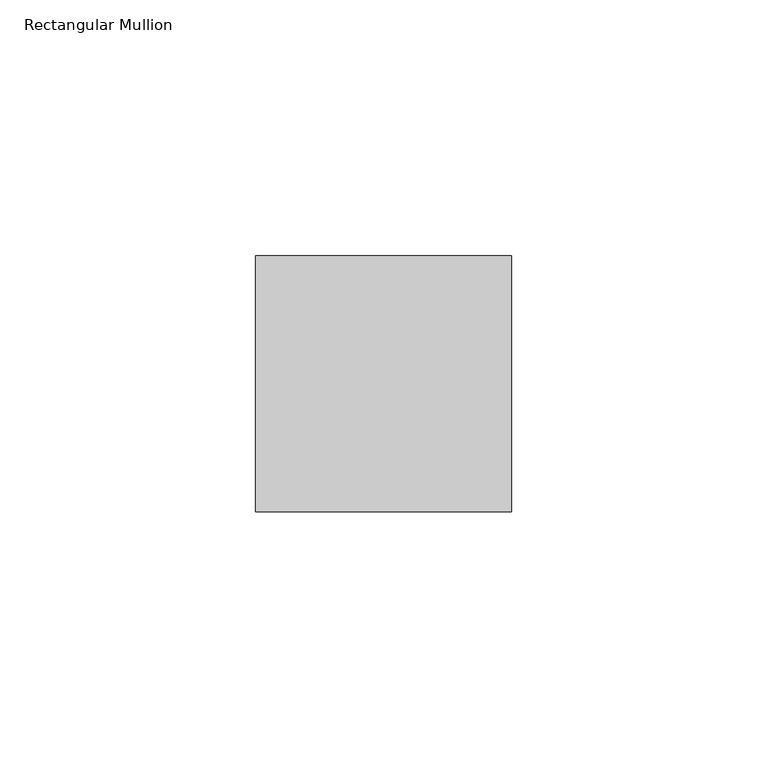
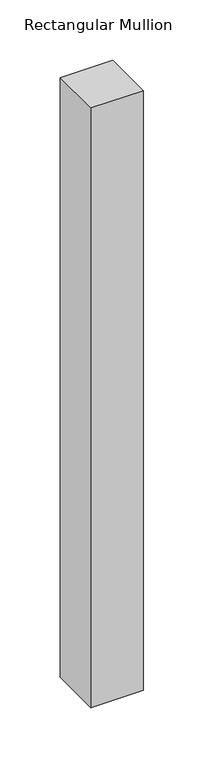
"""IFC4 building model written with IfcOpenShell, lengths in millimetres: member geometry, Rectangular Mullion : RSen_21_CWM_support profile 50x50_gen_duco projects."""

import ifcopenshell
import ifcopenshell.guid

model = None  # the IFC model being written
_history = None  # IfcOwnerHistory: only IFC2X3 demands one
_inside = {}  # id of a spatial element -> (the spatial element, [elements in it])
_under = {}  # id of a project, library or spatial element -> (it, [spatial elements below it])
_declared = {}  # id of a project -> (the project, [libraries it declares])
_typed = {}  # id of a type object -> (the type object, [elements of that type])
_made_of = {}  # id of a material, layer set ... -> (it, [elements and type objects made of it])


def new_model(schema):
    """Start an empty IFC model of exactly this schema.

    Asked for "IFC4X3", IfcOpenShell would pick the latest addendum, in which some entities
    have other attributes; the version numbers below select the first issue.
    IFC2X3 requires an IfcOwnerHistory on every rooted entity: one is made here for all.
    """
    global model, _history
    if schema == "IFC4X3":
        model = ifcopenshell.file(schema_version=(4, 3, 0, 0))
    else:
        model = ifcopenshell.file(schema=schema)
    _inside.clear()
    _under.clear()
    _declared.clear()
    _typed.clear()
    _made_of.clear()
    _history = None
    if model.schema == "IFC2X3":
        org = make("IfcOrganization", Name="unknown")
        user = make(
            "IfcPersonAndOrganization",
            ThePerson=make("IfcPerson", FamilyName="unknown"),
            TheOrganization=org,
        )
        app = make(
            "IfcApplication",
            ApplicationDeveloper=org,
            Version="unknown",
            ApplicationFullName="unknown",
            ApplicationIdentifier="unknown",
        )
        _history = make(
            "IfcOwnerHistory",
            OwningUser=user,
            OwningApplication=app,
            ChangeAction="ADDED",
            CreationDate=0,
        )
    return model


def make(cls, **values):
    """One entity of the class cls with the attributes given. An attribute that is None is left unset."""
    return model.create_entity(
        cls, **{name: value for name, value in values.items() if value is not None}
    )


def rooted(cls, **values):
    """An entity with a GlobalId (a new one), such as an element, a storey or a relation."""
    return make(cls, GlobalId=ifcopenshell.guid.new(), OwnerHistory=_history, **values)


def si_unit(unit_type, name, prefix=None):
    """IfcSIUnit, for example si_unit("LENGTHUNIT", "METRE", prefix="MILLI")."""
    return make("IfcSIUnit", UnitType=unit_type, Prefix=prefix, Name=name)


def assignment(units):
    """IfcUnitAssignment: the units of a project."""
    return None if units is None else make("IfcUnitAssignment", Units=units)


def point(xyz):
    """IfcCartesianPoint."""
    return None if xyz is None else make("IfcCartesianPoint", Coordinates=xyz)


def direction(xyz):
    """IfcDirection."""
    return None if xyz is None else make("IfcDirection", DirectionRatios=xyz)


def frame(location, z_axis=None, x_axis=None):
    """IfcAxis2Placement3D, a coordinate frame: its origin and axes. An axis left out is left unset."""
    return make(
        "IfcAxis2Placement3D",
        Location=point(location),
        Axis=direction(z_axis),
        RefDirection=direction(x_axis),
    )


def origin():
    """The frame at (0, 0, 0) with its axes left unset."""
    return frame((0.0, 0.0, 0.0))


def place(relative_to, where):
    """IfcLocalPlacement: puts the frame where relative to a parent placement (None: the world)."""
    return make(
        "IfcLocalPlacement", PlacementRelTo=relative_to, RelativePlacement=where
    )


def context(
    kind, dimensions, precision=None, world=None, true_north=None, identifier=None
):
    """IfcGeometricRepresentationContext, for example the 3D "Model" context."""
    return make(
        "IfcGeometricRepresentationContext",
        ContextIdentifier=identifier,
        ContextType=kind,
        CoordinateSpaceDimension=dimensions,
        Precision=precision,
        WorldCoordinateSystem=world,
        TrueNorth=true_north,
    )


def project(units=None, contexts=None):
    """IfcProject with its units and contexts."""
    return rooted(
        "IfcProject",
        Name="project",
        RepresentationContexts=contexts,
        UnitsInContext=assignment(units),
    )


def spatial(cls, under=None, at=None, **own):
    """A site, building, storey or space (cls), placed at a placement, below another one or the project."""
    s = rooted(cls, ObjectPlacement=at, **own)
    if under is not None:
        _under.setdefault(under.id(), (under, []))[1].append(s)
    return s


def polyline(points):
    """IfcPolyline through the points."""
    return make("IfcPolyline", Points=[point(p) for p in points])


def outline(outer, holes=None, kind="AREA"):
    """IfcArbitraryClosedProfileDef: a profile drawn as a closed curve; with holes, ...WithVoids."""
    if holes is None:
        return make("IfcArbitraryClosedProfileDef", ProfileType=kind, OuterCurve=outer)
    return make(
        "IfcArbitraryProfileDefWithVoids",
        ProfileType=kind,
        OuterCurve=outer,
        InnerCurves=holes,
    )


def extrude(swept, where, along, depth):
    """IfcExtrudedAreaSolid: the profile swept, set in the frame where, extruded along a direction by depth."""
    return make(
        "IfcExtrudedAreaSolid",
        SweptArea=swept,
        Position=where,
        ExtrudedDirection=direction(along),
        Depth=depth,
    )


def shape(context_of_items, identifier, shape_type, items):
    """IfcShapeRepresentation: the items that make up one representation, for example the "Body"."""
    return make(
        "IfcShapeRepresentation",
        ContextOfItems=context_of_items,
        RepresentationIdentifier=identifier,
        RepresentationType=shape_type,
        Items=items,
    )


def source(mapping_origin, context_of_items, identifier, shape_type, items):
    """IfcRepresentationMap: a shape defined once, which mapped items show again and again."""
    return make(
        "IfcRepresentationMap",
        MappingOrigin=mapping_origin,
        MappedRepresentation=shape(context_of_items, identifier, shape_type, items),
    )


def transform(
    local_origin,
    x_axis=None,
    y_axis=None,
    z_axis=None,
    scale=None,
    scale2=None,
    scale3=None,
    uniform=True,
):
    """IfcCartesianTransformationOperator3D, or its non-uniform kind. x_axis, y_axis, z_axis: its Axis1, 2, 3."""
    if uniform:
        return make(
            "IfcCartesianTransformationOperator3D",
            Axis1=direction(x_axis),
            Axis2=direction(y_axis),
            LocalOrigin=point(local_origin),
            Scale=scale,
            Axis3=direction(z_axis),
        )
    return make(
        "IfcCartesianTransformationOperator3DnonUniform",
        Axis1=direction(x_axis),
        Axis2=direction(y_axis),
        LocalOrigin=point(local_origin),
        Scale=scale,
        Axis3=direction(z_axis),
        Scale2=scale2,
        Scale3=scale3,
    )


def mapped(mapping_source, mapping_target):
    """IfcMappedItem: shows the shape of a source again, moved by a transform."""
    return make(
        "IfcMappedItem", MappingSource=mapping_source, MappingTarget=mapping_target
    )


def made_of(thing, what):
    """Note that an element or type object is made of a material, layer set ...; save() writes the relation."""
    if what is not None:
        _made_of.setdefault(what.id(), (what, []))[1].append(thing)
    return thing


def element(
    cls,
    number,
    at=None,
    inside=None,
    cuts=None,
    type_object=None,
    material=None,
    context=None,
    identifier="Body",
    shape_type=None,
    held_by="IfcProductDefinitionShape",
    body=None,
    shapes=None,
    **own,
):
    """One element of the class cls, such as IfcWall. Its Tag is "e" and its number.

    at: its placement. inside: the storey or other place that contains it. cuts: it is an
    opening in that element (IfcRelVoidsElement). A single representation is given by context,
    identifier, shape_type and body (its items); several are given by shapes. held_by: the class
    of the entity that holds the representations. save() writes the other relations.
    """
    e = rooted(cls, Tag="e%d" % number, ObjectPlacement=at, **own)
    if body is not None:
        shapes = [shape(context, identifier, shape_type, body)]
    if shapes is not None:
        e.Representation = make(held_by, Representations=shapes)
    if inside is not None:
        _inside.setdefault(inside.id(), (inside, []))[1].append(e)
    if cuts is not None:
        rooted(
            "IfcRelVoidsElement", RelatingBuildingElement=cuts, RelatedOpeningElement=e
        )
    if type_object is not None:
        _typed.setdefault(type_object.id(), (type_object, []))[1].append(e)
    return made_of(e, material)


def aggregate(whole, parts):
    """IfcRelAggregates: a whole, such as a stair, and the parts it consists of."""
    return rooted("IfcRelAggregates", RelatingObject=whole, RelatedObjects=parts)


def save(model, path):
    """Write the relations noted so far, then the file.

    IfcRelAggregates (storeys below a building ...), IfcRelContainedInSpatialStructure (elements
    in a storey), IfcRelDefinesByType, IfcRelAssociatesMaterial and IfcRelDeclares: one each for
    every whole, place, type object, material and project.
    """
    for whole, parts in _under.values():
        aggregate(whole, parts)
    for where, things in _inside.values():
        rooted(
            "IfcRelContainedInSpatialStructure",
            RelatedElements=things,
            RelatingStructure=where,
        )
    for kind, things in _typed.values():
        rooted("IfcRelDefinesByType", RelatedObjects=things, RelatingType=kind)
    for what, things in _made_of.values():
        rooted("IfcRelAssociatesMaterial", RelatedObjects=things, RelatingMaterial=what)
    for by, libraries in _declared.values():
        rooted("IfcRelDeclares", RelatingContext=by, RelatedDefinitions=libraries)
    model.write(path)


def rectangular_mullion_543a06af(model_context):
    return source(origin(), model_context, "Body", "SweptSolid", [
        extrude(outline(polyline([(25.0, 1.0), (25.0, -49.0), (-25.0, -49.0), (-25.0, 1.0), (25.0, 1.0)])), frame((0.0, 0.0, -605.0), z_axis=(0.0, 0.0, 1.0), x_axis=(1.0, 0.0, 0.0)), (0.0, 0.0, 1.0), 605.0),
    ])


if __name__ == "__main__":
    model = new_model("IFC4")
    model_context = context("Model", 3, world=origin())
    ifc_project = project(units=[si_unit("LENGTHUNIT", "METRE", prefix="MILLI")], contexts=[model_context])
    site = spatial("IfcSite", under=ifc_project)
    building = spatial("IfcBuilding", under=site)
    placement = place(None, origin())
    rectangular_mullion_shape = rectangular_mullion_543a06af(model_context)
    element("IfcMember", 1, ObjectType="Rectangular Mullion : RSen_21_CWM_support profile 50x50_gen_duco projects", at=placement, inside=building, context=model_context, shape_type="MappedRepresentation", body=[
        mapped(rectangular_mullion_shape, transform((0.0, 0.0, 0.0), x_axis=(1.0, 0.0, 0.0), y_axis=(0.0, 1.0, 0.0), z_axis=(0.0, 0.0, 1.0))),
    ])
    save(model, "model.ifc")
